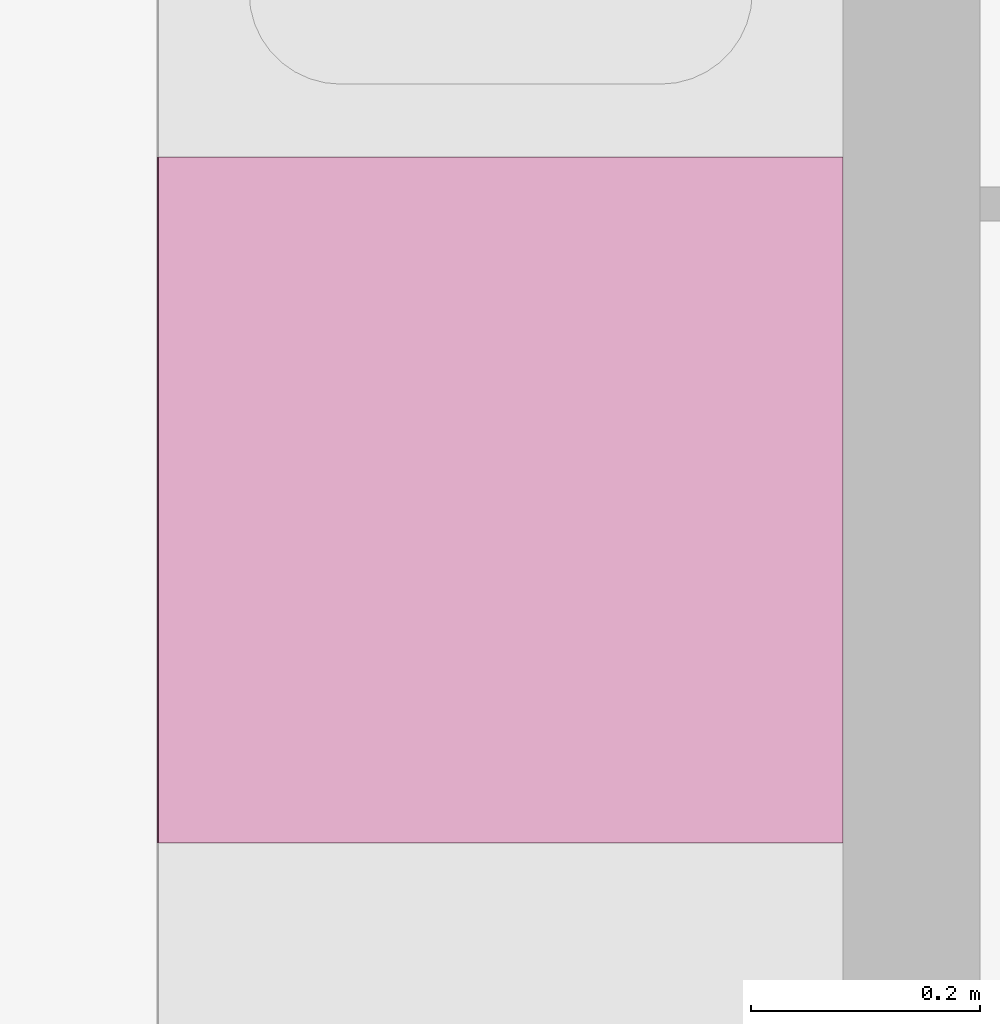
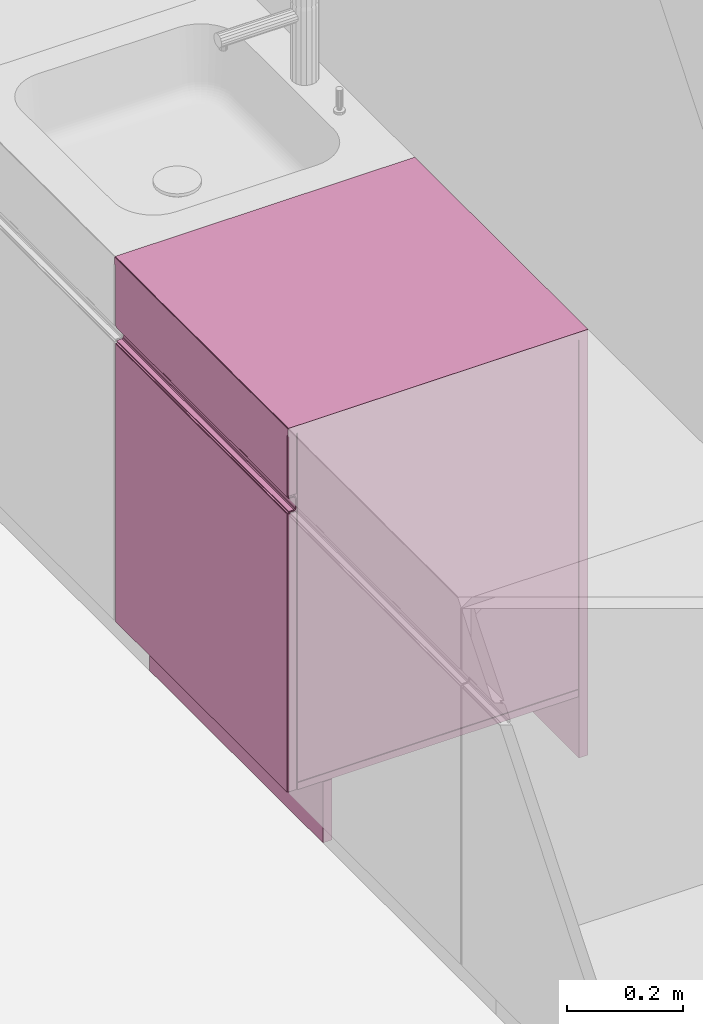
"""IFC4 building model written with IfcOpenShell, lengths in metres."""

from ifc_helpers import new_model, entity, si_unit, converted_unit, derived_unit, frame, origin, place, context, subcontext, project, spatial, faceted_brep, element, save


model = new_model("IFC4")

# Units and contexts
model_context = context("Model", 3, precision=1e-05, world=origin())
body_context = subcontext(model_context, "Body", "Model", "MODEL_VIEW")
ifc_project = project(units=[si_unit("LENGTHUNIT", "METRE"), si_unit("AREAUNIT", "SQUARE_METRE"), si_unit("VOLUMEUNIT", "CUBIC_METRE"), si_unit("MASSUNIT", "GRAM", prefix="KILO"), converted_unit("PLANEANGLEUNIT", "DEGREE", entity("IfcPlaneAngleMeasure", 0.0174532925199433), si_unit("PLANEANGLEUNIT", "RADIAN"), dimensions=[0, 0, 0, 0, 0, 0, 0]), derived_unit("THERMALTRANSMITTANCEUNIT", [(si_unit("POWERUNIT", "WATT"), 1), (si_unit("THERMODYNAMICTEMPERATUREUNIT", "KELVIN"), -1), (si_unit("LENGTHUNIT", "METRE"), -2)]), derived_unit("VOLUMETRICFLOWRATEUNIT", [(si_unit("LENGTHUNIT", "METRE"), 3), (converted_unit("TIMEUNIT", "hour", entity("IfcTimeMeasure", 3600.0), si_unit("TIMEUNIT", "SECOND"), dimensions=[0, 0, 1, 0, 0, 0, 0]), -1), (si_unit("LENGTHUNIT", "METRE"), -1)])], contexts=[model_context])

# Building, storeys
building_placement = place(None, origin())
building = spatial("IfcBuilding", under=ifc_project, at=building_placement, Name="HABITATGE PLURIFAMILIAR", CompositionType="ELEMENT")
storey_1_placement = place(building_placement, frame((0.0, 0.0, 3.35)))
storey_1 = spatial("IfcBuildingStorey", under=building, at=storey_1_placement, Name="PLANTA  ALTELL", CompositionType="ELEMENT", Elevation=3.35)
storey_2_placement = place(storey_1_placement, origin())
storey_2 = spatial("IfcBuildingStorey", under=storey_1, at=storey_2_placement, Name="NOU", CompositionType="PARTIAL")

# Furniture
furniture_placement = place(storey_2_placement, frame((406.271931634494, 21.5195914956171, 0.0)))
element("IfcFurniture", 1, at=furniture_placement, inside=storey_2, Name="Taulells_PA", context=body_context, shape_type="Brep", body=[
    faceted_brep([(0.600000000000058, 0.0, 0.0), (0.600000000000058, 0.600000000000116, 0.0), (0.582000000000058, 0.600000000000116, 0.0), (0.582000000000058, 0.0, 0.0), (0.582000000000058, 0.0, 0.883800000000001), (0.582000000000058, 0.600000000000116, 0.883800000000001), (0.600000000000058, 0.600000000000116, 0.883800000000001), (0.600000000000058, 0.0, 0.883800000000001)], [[[0, 1, 2, 3]], [[4, 5, 6, 7]], [[3, 4, 7, 0]], [[2, 5, 4, 3]], [[1, 6, 5, 2]], [[0, 7, 6, 1]]], orient=[[False], [False], [False], [False], [False], [False]]),
    faceted_brep([(0.0180000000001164, 0.00200000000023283, 0.755800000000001), (0.00200000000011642, 0.00200000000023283, 0.755800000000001), (0.00200000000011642, 0.00200000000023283, 0.883800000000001), (0.0180000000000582, 0.00200000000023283, 0.883800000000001), (0.00165270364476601, 0.00203038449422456, 0.755452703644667), (0.00165270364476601, 0.00203038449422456, 0.883800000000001), (0.00131595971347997, 0.00212061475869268, 0.75511595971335), (0.00131595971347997, 0.00212061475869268, 0.883800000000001), (0.00100000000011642, 0.00226794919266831, 0.754800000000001), (0.00100000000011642, 0.00226794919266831, 0.883800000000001), (0.000714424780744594, 0.00246791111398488, 0.754514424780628), (0.000714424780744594, 0.00246791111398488, 0.883800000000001), (0.000591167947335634, 0.00259116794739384, 0.754391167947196), (0.000467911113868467, 0.0027144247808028, 0.754514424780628), (0.000467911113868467, 0.0027144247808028, 0.883800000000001), (0.000267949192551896, 0.00300000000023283, 0.754800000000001), (0.000267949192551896, 0.00300000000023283, 0.883800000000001), (0.000120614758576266, 0.00331595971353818, 0.75511595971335), (0.000120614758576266, 0.00331595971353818, 0.883800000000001), (3.03844941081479e-05, 0.00365270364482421, 0.755452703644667), (3.03844941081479e-05, 0.00365270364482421, 0.883800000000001), (0.0, 0.00400000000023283, 0.755800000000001), (0.0, 0.00400000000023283, 0.883800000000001), (0.0, 0.596000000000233, 0.755800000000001), (0.0, 0.596000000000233, 0.883800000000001), (0.00200000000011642, 0.598000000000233, 0.755800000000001), (0.0180000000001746, 0.598000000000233, 0.755800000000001), (0.0180000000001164, 0.598000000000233, 0.883800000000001), (0.00200000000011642, 0.598000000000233, 0.883800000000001), (0.00165270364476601, 0.597969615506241, 0.883800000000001), (0.00165270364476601, 0.597969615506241, 0.755452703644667), (0.00131595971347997, 0.597879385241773, 0.883800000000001), (0.00131595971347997, 0.597879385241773, 0.75511595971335), (0.00100000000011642, 0.597732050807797, 0.883800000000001), (0.00100000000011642, 0.597732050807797, 0.754800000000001), (0.000714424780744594, 0.597532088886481, 0.883800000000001), (0.000714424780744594, 0.597532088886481, 0.754514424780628), (0.000467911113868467, 0.597285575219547, 0.883800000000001), (0.000467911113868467, 0.597285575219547, 0.754514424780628), (0.000591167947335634, 0.597408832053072, 0.754391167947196), (0.000267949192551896, 0.597000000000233, 0.883800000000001), (0.000267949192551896, 0.597000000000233, 0.754800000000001), (0.000120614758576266, 0.596684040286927, 0.883800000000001), (0.000120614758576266, 0.596684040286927, 0.75511595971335), (3.03844941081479e-05, 0.596347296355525, 0.883800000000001), (3.03844941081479e-05, 0.596347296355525, 0.755452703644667), (0.0180000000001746, 0.596000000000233, 0.753800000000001), (0.00200000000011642, 0.596000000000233, 0.753800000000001), (0.00200000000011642, 0.00400000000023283, 0.753800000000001), (0.0180000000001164, 0.00400000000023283, 0.753800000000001), (0.00165270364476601, 0.00365270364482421, 0.753830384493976), (0.0180000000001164, 0.00365270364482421, 0.753830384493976), (0.00131595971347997, 0.00331595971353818, 0.753920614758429), (0.0180000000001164, 0.00331595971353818, 0.753920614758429), (0.00100000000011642, 0.00300000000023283, 0.754067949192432), (0.0180000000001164, 0.00300000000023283, 0.754067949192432), (0.000714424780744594, 0.0027144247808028, 0.754267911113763), (0.0180000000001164, 0.0027144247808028, 0.754267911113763), (0.0180000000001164, 0.00246791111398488, 0.754514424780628), (0.0180000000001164, 0.00226794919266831, 0.754800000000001), (0.0180000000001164, 0.00212061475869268, 0.75511595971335), (0.0180000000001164, 0.00203038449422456, 0.755452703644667), (0.00165270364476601, 0.596347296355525, 0.753830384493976), (0.00131595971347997, 0.596684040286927, 0.753920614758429), (0.00100000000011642, 0.597000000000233, 0.754067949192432), (0.000714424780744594, 0.597285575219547, 0.754267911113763), (0.0180000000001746, 0.596347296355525, 0.753830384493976), (0.0180000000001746, 0.596684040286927, 0.753920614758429), (0.0180000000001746, 0.597000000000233, 0.754067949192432), (0.0180000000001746, 0.597285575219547, 0.754267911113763), (0.0180000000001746, 0.597532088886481, 0.754514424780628), (0.0180000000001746, 0.597732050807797, 0.754800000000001), (0.0180000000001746, 0.597879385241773, 0.75511595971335), (0.0180000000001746, 0.597969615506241, 0.755452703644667)], [[[0, 1, 2, 3]], [[2, 1, 4, 5]], [[5, 4, 6, 7]], [[7, 6, 8, 9]], [[9, 8, 10, 11]], [[11, 10, 12, 13, 14]], [[14, 13, 15, 16]], [[16, 15, 17, 18]], [[18, 17, 19, 20]], [[20, 19, 21, 22]], [[22, 21, 23, 24]], [[25, 26, 27, 28]], [[29, 30, 25, 28]], [[31, 32, 30, 29]], [[33, 34, 32, 31]], [[35, 36, 34, 33]], [[37, 38, 39, 36, 35]], [[40, 41, 38, 37]], [[42, 43, 41, 40]], [[44, 45, 43, 42]], [[24, 23, 45, 44]], [[46, 47, 48, 49]], [[49, 48, 50, 51]], [[51, 50, 52, 53]], [[53, 52, 54, 55]], [[55, 54, 56, 57]], [[57, 56, 12, 10, 58]], [[58, 10, 8, 59]], [[59, 8, 6, 60]], [[60, 6, 4, 61]], [[61, 4, 1, 0]], [[47, 62, 50, 48]], [[62, 63, 52, 50]], [[63, 64, 54, 52]], [[64, 65, 56, 54]], [[65, 39, 38, 13, 12, 56]], [[38, 41, 15, 13]], [[41, 43, 17, 15]], [[43, 45, 19, 17]], [[45, 23, 21, 19]], [[66, 62, 47, 46]], [[67, 63, 62, 66]], [[68, 64, 63, 67]], [[69, 65, 64, 68]], [[70, 36, 39, 65, 69]], [[71, 34, 36, 70]], [[72, 32, 34, 71]], [[73, 30, 32, 72]], [[26, 25, 30, 73]], [[27, 26, 73, 72, 71, 70, 69, 68, 67, 66, 46, 49, 51, 53, 55, 57, 58, 59, 60, 61, 0, 3]], [[2, 5, 7, 9, 11, 14, 16, 18, 20, 22, 24, 44, 42, 40, 37, 35, 33, 31, 29, 28, 27, 3]]], orient=[[False], [False], [False], [False], [False], [False], [False], [False], [False], [False], [False], [False], [False], [False], [False], [False], [False], [False], [False], [False], [False], [False], [False], [False], [False], [False], [False], [False], [False], [False], [False], [False], [False], [False], [False], [False], [False], [False], [False], [False], [False], [False], [False], [False], [False], [False], [False], [False], [False], [False], [False]]),
    faceted_brep([(0.0180000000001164, 0.00200000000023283, 0.130000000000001), (0.00200000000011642, 0.00200000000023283, 0.130000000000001), (0.00200000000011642, 0.00200000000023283, 0.716800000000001), (0.0180000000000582, 0.00200000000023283, 0.716800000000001), (0.00165270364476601, 0.00203038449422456, 0.130000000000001), (0.00165270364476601, 0.00203038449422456, 0.717147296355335), (0.00131595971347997, 0.00212061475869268, 0.130000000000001), (0.00131595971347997, 0.00212061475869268, 0.717484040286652), (0.00100000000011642, 0.00226794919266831, 0.130000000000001), (0.00100000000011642, 0.00226794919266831, 0.717800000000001), (0.000714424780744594, 0.00246791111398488, 0.130000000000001), (0.000714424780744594, 0.00246791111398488, 0.718085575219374), (0.000467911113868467, 0.0027144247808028, 0.130000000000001), (0.000467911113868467, 0.0027144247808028, 0.718085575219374), (0.000591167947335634, 0.00259116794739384, 0.718208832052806), (0.000267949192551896, 0.00300000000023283, 0.130000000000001), (0.000267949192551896, 0.00300000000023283, 0.717800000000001), (0.000120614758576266, 0.00331595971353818, 0.130000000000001), (0.000120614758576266, 0.00331595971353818, 0.717484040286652), (3.03844941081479e-05, 0.00365270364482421, 0.130000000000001), (3.03844941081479e-05, 0.00365270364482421, 0.717147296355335), (0.0, 0.00400000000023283, 0.130000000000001), (0.0, 0.00400000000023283, 0.716800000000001), (0.0, 0.596000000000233, 0.130000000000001), (0.0, 0.596000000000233, 0.716800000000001), (0.00200000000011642, 0.596000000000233, 0.718800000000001), (0.0180000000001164, 0.596000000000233, 0.718800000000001), (0.0180000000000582, 0.00400000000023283, 0.718800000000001), (0.00200000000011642, 0.00400000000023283, 0.718800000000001), (0.00165270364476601, 0.00365270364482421, 0.718769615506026), (0.00165270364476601, 0.596347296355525, 0.718769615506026), (0.00131595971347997, 0.00331595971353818, 0.718679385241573), (0.00131595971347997, 0.596684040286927, 0.718679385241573), (0.00100000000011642, 0.00300000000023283, 0.71853205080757), (0.00100000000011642, 0.597000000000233, 0.71853205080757), (0.000714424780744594, 0.0027144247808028, 0.718332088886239), (0.000714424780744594, 0.597285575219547, 0.718332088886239), (0.000467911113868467, 0.597285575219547, 0.718085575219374), (0.000591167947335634, 0.597408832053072, 0.718208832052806), (0.000267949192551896, 0.597000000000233, 0.717800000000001), (0.000120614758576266, 0.596684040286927, 0.717484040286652), (3.03844941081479e-05, 0.596347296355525, 0.717147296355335), (0.0180000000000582, 0.00365270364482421, 0.718769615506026), (0.0180000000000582, 0.00331595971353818, 0.718679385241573), (0.0180000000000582, 0.00300000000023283, 0.71853205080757), (0.0180000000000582, 0.0027144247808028, 0.718332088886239), (0.0180000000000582, 0.00246791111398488, 0.718085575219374), (0.0180000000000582, 0.00226794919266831, 0.717800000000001), (0.0180000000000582, 0.00212061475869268, 0.717484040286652), (0.0180000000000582, 0.00203038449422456, 0.717147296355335), (0.00200000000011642, 0.598000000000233, 0.130000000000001), (0.0180000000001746, 0.598000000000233, 0.130000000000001), (0.0180000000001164, 0.598000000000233, 0.716800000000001), (0.00200000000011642, 0.598000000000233, 0.716800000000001), (0.0180000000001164, 0.596347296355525, 0.718769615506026), (0.0180000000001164, 0.596684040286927, 0.718679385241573), (0.0180000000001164, 0.597000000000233, 0.71853205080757), (0.0180000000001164, 0.597285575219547, 0.718332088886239), (0.000714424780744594, 0.597532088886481, 0.718085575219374), (0.0180000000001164, 0.597532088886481, 0.718085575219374), (0.00100000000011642, 0.597732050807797, 0.717800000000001), (0.0180000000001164, 0.597732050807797, 0.717800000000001), (0.00131595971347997, 0.597879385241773, 0.717484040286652), (0.0180000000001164, 0.597879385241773, 0.717484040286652), (0.00165270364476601, 0.597969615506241, 0.717147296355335), (0.0180000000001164, 0.597969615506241, 0.717147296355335), (0.00165270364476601, 0.597969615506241, 0.130000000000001), (0.00131595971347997, 0.597879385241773, 0.130000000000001), (0.00100000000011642, 0.597732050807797, 0.130000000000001), (0.000714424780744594, 0.597532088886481, 0.130000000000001), (0.000467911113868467, 0.597285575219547, 0.130000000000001), (0.000267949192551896, 0.597000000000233, 0.130000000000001), (0.000120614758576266, 0.596684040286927, 0.130000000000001), (3.03844941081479e-05, 0.596347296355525, 0.130000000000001)], [[[0, 1, 2, 3]], [[2, 1, 4, 5]], [[5, 4, 6, 7]], [[7, 6, 8, 9]], [[9, 8, 10, 11]], [[11, 10, 12, 13, 14]], [[13, 12, 15, 16]], [[16, 15, 17, 18]], [[18, 17, 19, 20]], [[20, 19, 21, 22]], [[22, 21, 23, 24]], [[25, 26, 27, 28]], [[25, 28, 29, 30]], [[30, 29, 31, 32]], [[32, 31, 33, 34]], [[34, 33, 35, 36]], [[36, 35, 14, 13, 37, 38]], [[37, 13, 16, 39]], [[39, 16, 18, 40]], [[40, 18, 20, 41]], [[41, 20, 22, 24]], [[28, 27, 42, 29]], [[29, 42, 43, 31]], [[31, 43, 44, 33]], [[33, 44, 45, 35]], [[35, 45, 46, 11, 14]], [[11, 46, 47, 9]], [[9, 47, 48, 7]], [[7, 48, 49, 5]], [[5, 49, 3, 2]], [[50, 51, 52, 53]], [[26, 25, 30, 54]], [[54, 30, 32, 55]], [[55, 32, 34, 56]], [[56, 34, 36, 57]], [[57, 36, 38, 58, 59]], [[59, 58, 60, 61]], [[61, 60, 62, 63]], [[63, 62, 64, 65]], [[65, 64, 53, 52]], [[53, 64, 66, 50]], [[64, 62, 67, 66]], [[62, 60, 68, 67]], [[60, 58, 69, 68]], [[58, 38, 37, 70, 69]], [[37, 39, 71, 70]], [[39, 40, 72, 71]], [[40, 41, 73, 72]], [[41, 24, 23, 73]], [[3, 49, 48, 47, 46, 45, 44, 43, 42, 27, 26, 54, 55, 56, 57, 59, 61, 63, 65, 52, 51, 0]], [[1, 0, 51, 50, 66, 67, 68, 69, 70, 71, 72, 73, 23, 21, 19, 17, 15, 12, 10, 8, 6, 4]]], orient=[[False], [False], [False], [False], [False], [False], [False], [False], [False], [False], [False], [False], [False], [False], [False], [False], [False], [False], [False], [False], [False], [False], [False], [False], [False], [False], [False], [False], [False], [False], [False], [False], [False], [False], [False], [False], [False], [False], [False], [False], [False], [False], [False], [False], [False], [False], [False], [False], [False], [False], [False]]),
    faceted_brep([(0.0880000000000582, 0.0, 0.0), (0.0880000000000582, 0.600000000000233, 0.0), (0.0700000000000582, 0.600000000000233, 0.0), (0.0700000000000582, 0.0, 0.0), (0.0700000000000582, 0.0, 0.128800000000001), (0.0700000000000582, 0.600000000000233, 0.128800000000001), (0.0880000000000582, 0.600000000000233, 0.128800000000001), (0.0880000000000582, 0.0, 0.128800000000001)], [[[0, 1, 2, 3]], [[4, 5, 6, 7]], [[5, 4, 3, 2]], [[7, 6, 1, 0]], [[2, 1, 6, 5]], [[0, 3, 4, 7]]], orient=[[False], [False], [False], [False], [False], [False]]),
    faceted_brep([(0.0192000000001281, 0.600000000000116, 0.130000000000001), (0.0192000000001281, 0.0, 0.130000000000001), (0.580800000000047, 0.0, 0.130000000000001), (0.580800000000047, 0.600000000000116, 0.130000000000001), (0.580800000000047, 0.600000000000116, 0.145000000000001), (0.580800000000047, 0.0, 0.145000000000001), (0.0192000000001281, 0.0, 0.145000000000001), (0.0192000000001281, 0.600000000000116, 0.145000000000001)], [[[0, 1, 2, 3]], [[4, 5, 6, 7]], [[3, 4, 7, 0]], [[2, 5, 4, 3]], [[1, 6, 5, 2]], [[0, 7, 6, 1]]], orient=[[False], [False], [False], [False], [False], [False]]),
    faceted_brep([(0.580800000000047, 0.600000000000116, 0.146200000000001), (0.0192000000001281, 0.600000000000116, 0.146200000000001), (0.0192000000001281, 0.582000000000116, 0.146200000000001), (0.580800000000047, 0.582000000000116, 0.146200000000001), (0.580800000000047, 0.582000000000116, 0.883800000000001), (0.0192000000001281, 0.582000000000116, 0.883800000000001), (0.0192000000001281, 0.600000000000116, 0.883800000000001), (0.580800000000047, 0.600000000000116, 0.883800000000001)], [[[0, 1, 2, 3]], [[4, 5, 6, 7]], [[3, 4, 7, 0]], [[2, 5, 4, 3]], [[1, 6, 5, 2]], [[0, 7, 6, 1]]], orient=[[False], [False], [False], [False], [False], [False]]),
    faceted_brep([(0.580800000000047, 0.0, 0.146200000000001), (0.580800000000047, 0.0180000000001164, 0.146200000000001), (0.0192000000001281, 0.0180000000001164, 0.146200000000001), (0.0192000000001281, 0.0, 0.146200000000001), (0.580800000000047, 0.0180000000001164, 0.883800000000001), (0.580800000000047, 0.0, 0.883800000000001), (0.0192000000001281, 0.0, 0.883800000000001), (0.0192000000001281, 0.0180000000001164, 0.883800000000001)], [[[0, 1, 2, 3]], [[4, 5, 6, 7]], [[1, 0, 5, 4]], [[2, 1, 4, 7]], [[3, 2, 7, 6]], [[0, 3, 6, 5]]], orient=[[False], [False], [False], [False], [False], [False]]),
    faceted_brep([(0.00250000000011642, 0.598000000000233, 0.749800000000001), (0.00250000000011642, 0.00200000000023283, 0.749800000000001), (0.0109875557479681, 0.00200000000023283, 0.749800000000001), (0.0109875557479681, 0.598000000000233, 0.749800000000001), (0.0129057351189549, 0.00200000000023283, 0.749418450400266), (0.0129057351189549, 0.598000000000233, 0.749418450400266), (0.0145318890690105, 0.00200000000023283, 0.748331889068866), (0.0145318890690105, 0.598000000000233, 0.748331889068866), (0.0156184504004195, 0.00200000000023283, 0.746705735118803), (0.0156184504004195, 0.598000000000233, 0.746705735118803), (0.0160000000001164, 0.00200000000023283, 0.744787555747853), (0.0160000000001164, 0.598000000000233, 0.744787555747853), (0.0160000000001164, 0.00200000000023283, 0.727812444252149), (0.0160000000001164, 0.598000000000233, 0.727812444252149), (0.0156184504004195, 0.00200000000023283, 0.725894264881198), (0.0156184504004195, 0.598000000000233, 0.725894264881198), (0.0145318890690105, 0.00200000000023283, 0.724268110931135), (0.0145318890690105, 0.598000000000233, 0.724268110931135), (0.0129057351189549, 0.00200000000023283, 0.723181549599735), (0.0129057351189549, 0.598000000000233, 0.723181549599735), (0.0109875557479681, 0.00200000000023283, 0.722800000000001), (0.0109875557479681, 0.598000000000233, 0.722800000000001), (0.00250000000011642, 0.00200000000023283, 0.722800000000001), (0.00250000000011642, 0.598000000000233, 0.722800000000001), (0.00250000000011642, 0.00200000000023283, 0.720800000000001), (0.00250000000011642, 0.598000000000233, 0.720800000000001), (0.0109875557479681, 0.00200000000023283, 0.720800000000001), (0.0109875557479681, 0.598000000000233, 0.720800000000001), (0.0136711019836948, 0.00200000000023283, 0.721333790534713), (0.0136711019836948, 0.598000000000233, 0.721333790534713), (0.0159461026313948, 0.00200000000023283, 0.722853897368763), (0.0159461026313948, 0.598000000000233, 0.722853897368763), (0.017466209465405, 0.00200000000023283, 0.725128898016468), (0.017466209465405, 0.598000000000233, 0.725128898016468), (0.0180000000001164, 0.00200000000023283, 0.727812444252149), (0.0180000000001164, 0.598000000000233, 0.727812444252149), (0.0180000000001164, 0.00200000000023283, 0.744787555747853), (0.0180000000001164, 0.598000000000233, 0.744787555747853), (0.017466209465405, 0.00200000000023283, 0.747471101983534), (0.017466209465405, 0.598000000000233, 0.747471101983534), (0.0159461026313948, 0.00200000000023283, 0.749746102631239), (0.0159461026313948, 0.598000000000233, 0.749746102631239), (0.0136711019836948, 0.00200000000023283, 0.751266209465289), (0.0136711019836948, 0.598000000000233, 0.751266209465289), (0.0109875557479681, 0.00200000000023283, 0.751800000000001), (0.0109875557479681, 0.598000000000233, 0.751800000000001), (0.00250000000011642, 0.00200000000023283, 0.751800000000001), (0.00250000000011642, 0.598000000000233, 0.751800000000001)], [[[0, 1, 2, 3]], [[3, 2, 4, 5]], [[5, 4, 6, 7]], [[7, 6, 8, 9]], [[9, 8, 10, 11]], [[11, 10, 12, 13]], [[13, 12, 14, 15]], [[15, 14, 16, 17]], [[17, 16, 18, 19]], [[19, 18, 20, 21]], [[21, 20, 22, 23]], [[23, 22, 24, 25]], [[25, 24, 26, 27]], [[27, 26, 28, 29]], [[29, 28, 30, 31]], [[31, 30, 32, 33]], [[33, 32, 34, 35]], [[35, 34, 36, 37]], [[37, 36, 38, 39]], [[39, 38, 40, 41]], [[41, 40, 42, 43]], [[43, 42, 44, 45]], [[45, 44, 46, 47]], [[47, 46, 1, 0]], [[0, 3, 5, 7, 9, 11, 13, 15, 17, 19, 21, 23, 25, 27, 29, 31, 33, 35, 37, 39, 41, 43, 45, 47]], [[1, 46, 44, 42, 40, 38, 36, 34, 32, 30, 28, 26, 24, 22, 20, 18, 16, 14, 12, 10, 8, 6, 4, 2]]], orient=[[False], [False], [False], [False], [False], [False], [False], [False], [False], [False], [False], [False], [False], [False], [False], [False], [False], [False], [False], [False], [False], [False], [False], [False], [False], [False]]),
    faceted_brep([(0.0, 0.0, 0.883800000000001), (0.0, 0.6, 0.883800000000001), (0.0, 0.6, 0.898000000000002), (0.0, 0.0, 0.898000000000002), (0.6, 0.6, 0.899999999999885), (0.599999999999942, 0.0, 0.899999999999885), (0.00199999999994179, 0.0, 0.900000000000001), (0.002, 0.6, 0.900000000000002), (3.03844939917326e-05, 0.6, 0.898347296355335), (3.03844939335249e-05, 0.0, 0.898347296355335), (0.000120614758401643, 0.6, 0.898684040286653), (0.000120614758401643, 0.0, 0.898684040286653), (0.000267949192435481, 0.6, 0.899000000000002), (0.000267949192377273, 0.0, 0.899000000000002), (0.000467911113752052, 0.6, 0.899285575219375), (0.000467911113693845, 0.0, 0.899285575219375), (0.000714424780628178, 0.6, 0.89953208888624), (0.000714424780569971, 0.0, 0.89953208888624), (0.001, 0.6, 0.89973205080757), (0.000999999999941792, 0.0, 0.89973205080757), (0.00131595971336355, 0.6, 0.899879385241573), (0.00131595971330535, 0.0, 0.899879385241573), (0.00165270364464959, 0.6, 0.899969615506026), (0.00165270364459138, 0.0, 0.899969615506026), (0.6, 0.6, 0.883800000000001), (0.599999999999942, 0.0, 0.883800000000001)], [[[0, 1, 2, 3]], [[4, 5, 6, 7]], [[8, 9, 3, 2]], [[10, 11, 9, 8]], [[12, 13, 11, 10]], [[14, 15, 13, 12]], [[16, 17, 15, 14]], [[18, 19, 17, 16]], [[20, 21, 19, 18]], [[22, 23, 21, 20]], [[7, 6, 23, 22]], [[4, 7, 22, 20, 18, 16, 14, 12, 10, 8, 2, 1, 24]], [[0, 3, 9, 11, 13, 15, 17, 19, 21, 23, 6, 5, 25]], [[4, 24, 25, 5]], [[1, 0, 25, 24]]], orient=[[False], [False], [False], [False], [False], [False], [False], [False], [False], [False], [False], [False], [False], [False], [False]]),
])

save(model, "model.ifc")
